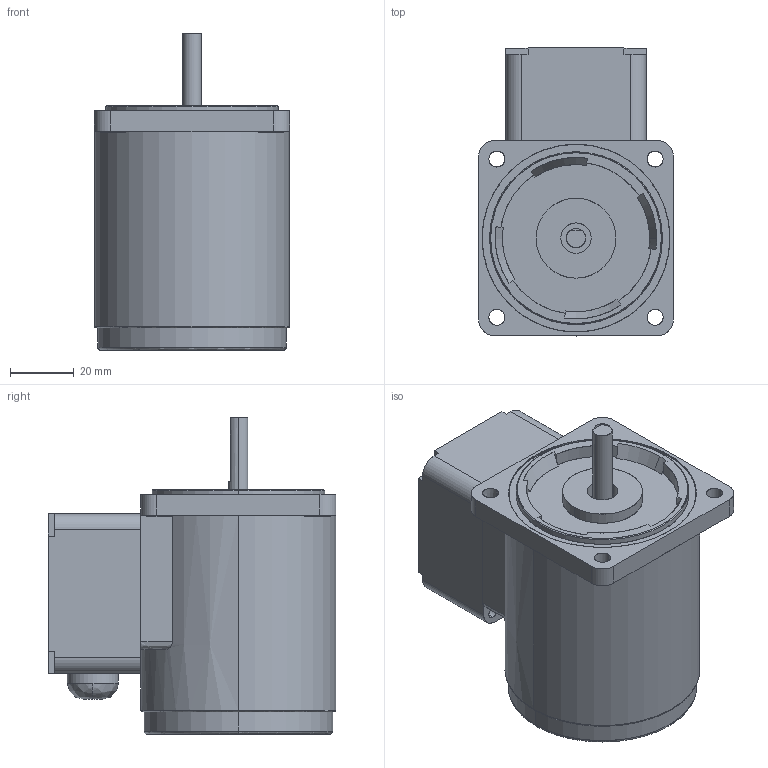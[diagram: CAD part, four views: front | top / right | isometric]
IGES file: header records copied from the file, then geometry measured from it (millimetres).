
Start section: SolidWorks IGES file using analytic representation for surfaces
Bounding box: 61 x 90 x 99 mm (x, y, z)
Surface area: 55166.6 mm2 (no closed solid volume)
Topology: 0 solids, 0 shells, 159 faces, 3216 edges, 3216 vertices
Faces by surface type: bspline 83, revolution 76
